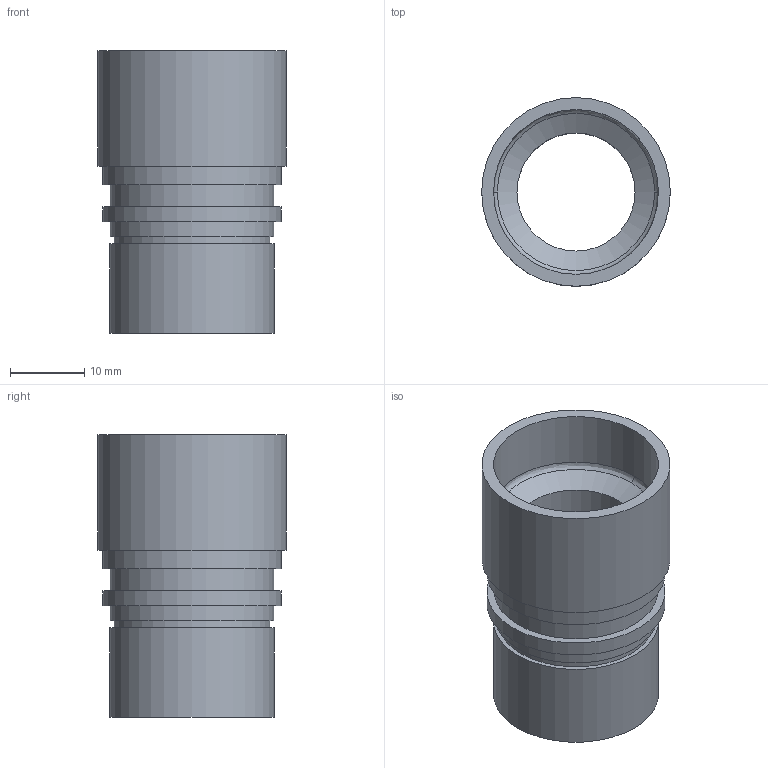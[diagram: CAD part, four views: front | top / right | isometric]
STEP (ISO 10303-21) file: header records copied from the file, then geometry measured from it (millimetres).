
FILE_DESCRIPTION (( 'STEP AP203' ), '1' );
FILE_NAME ('70-19.05R25.4-PH.STEP', '2013-09-19T10:48:08', ( '' ), ( '' ), 'SwSTEP 2.0', 'SolidWorks 2012', '' );
FILE_SCHEMA (( 'CONFIG_CONTROL_DESIGN' ));
Length unit declared in the file: millimetre
Products named in the file (1): 70-19.05R25.4-PH
Bounding box: 25.4 x 25.4 x 38 mm (x, y, z)
Volume: 6950.2 mm3; surface area: 5724.7 mm2
Topology: 1 solids, 1 shells, 22 faces, 37 edges, 24 vertices
Faces by surface type: cylinder 10, plane 9, bspline 2, cone 1
Full cylindrical faces by diameter (mm): 15.9 x1, 19.05 x1, 21 x1, 22 x2, 22.2 x2, 24 x2, 25.4 x1
Entity records: 567 total; most frequent: CARTESIAN_POINT 107, DIRECTION 88, ORIENTED_EDGE 50, AXIS2_PLACEMENT_3D 44, EDGE_LOOP 42, FACE_OUTER_BOUND 32, EDGE_CURVE 25, VERTEX_POINT 23
